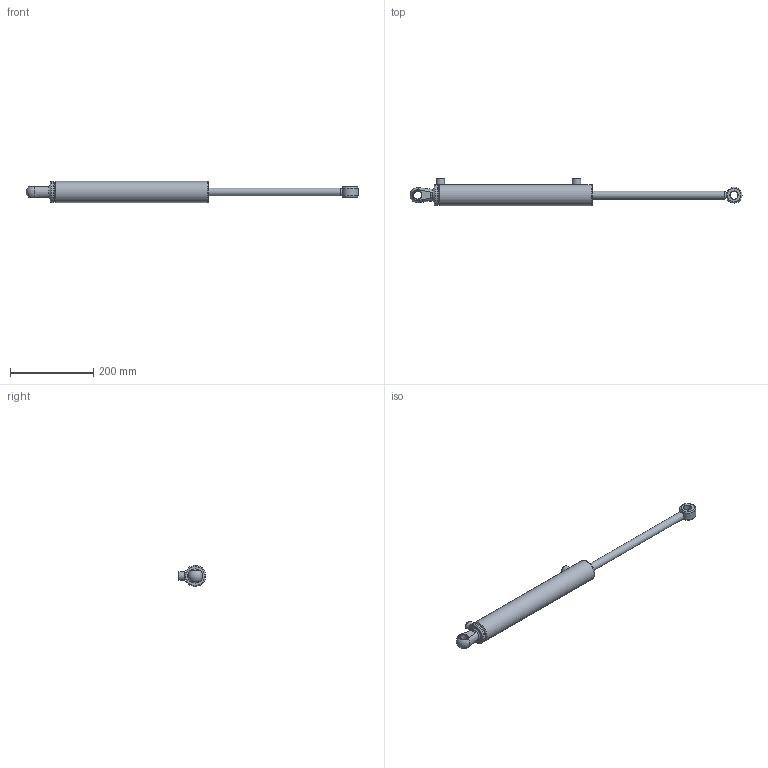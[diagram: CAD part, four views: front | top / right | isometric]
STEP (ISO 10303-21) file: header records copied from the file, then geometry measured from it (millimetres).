
FILE_DESCRIPTION(/* description */ ('Alibre Inc.'),/* implementation_level */ '2;1');
FILE_NAME(/* name */ 'export0',/* time_stamp */ '2016-08-16T09:47:12+12:00',/* author */ (''),/* organization */ (''),/* preprocessor_version */ 'ST-DEVELOPER v14',/* originating_system */ 'Alibre',/* authorisation */ '');
FILE_SCHEMA (('AUTOMOTIVE_DESIGN'));
Length unit declared in the file: centimetre
Bounding box: 796.28 x 65.8 x 50.8 mm (x, y, z)
Volume: 549602.6 mm3; surface area: 168003 mm2
Topology: 11 solids, 11 shells, 109 faces, 207 edges, 128 vertices
Faces by surface type: cylinder 38, plane 37, cone 21, torus 10, bspline 2, sphere 1
Full cylindrical faces by diameter (mm): 3 x2, 5.588 x1, 11.9 x2, 14.33 x2, 19.05 x3, 19.1 x2, 19.6 x1, 20 x2, 22.86 x1, 25.42 x1, 25.705 x1, 25.9 x1, 31.85 x1, 31.92 x1, 33.884 x1, 35.56 x1, 37.44 x3, 38 x3, 38.1 x2, 41.148 x1, 41.275 x2, 43.646 x1, 50.8 x3
Entity records: 3066 total; most frequent: CARTESIAN_POINT 989, DIRECTION 393, ORIENTED_EDGE 234, AXIS2_PLACEMENT_3D 218, EDGE_LOOP 204, FACE_BOUND 204, EDGE_CURVE 117, VERTEX_POINT 113
